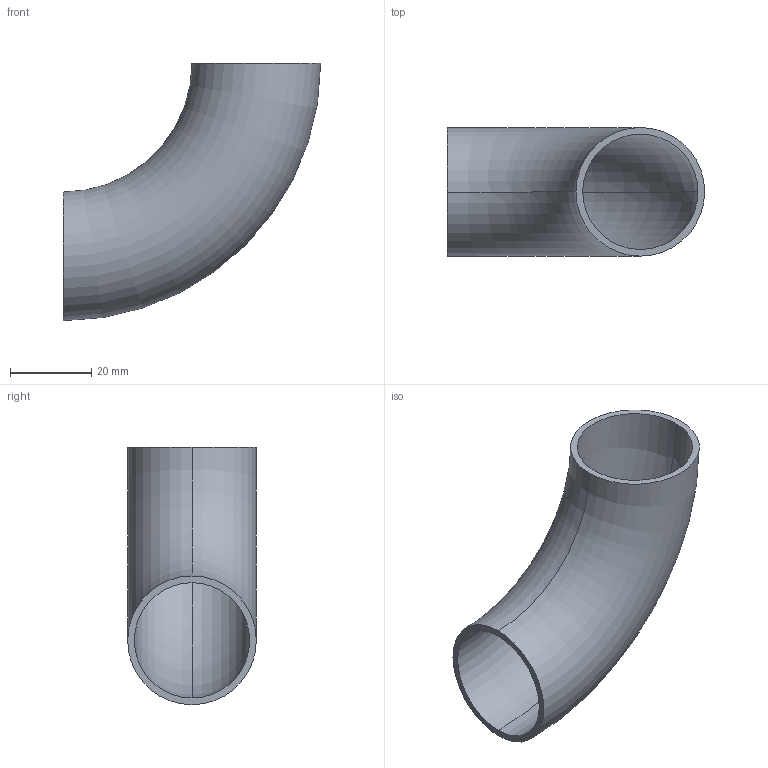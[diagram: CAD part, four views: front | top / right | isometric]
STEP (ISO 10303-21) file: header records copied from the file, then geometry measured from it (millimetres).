
FILE_DESCRIPTION (( 'STEP AP203' ), '1' );
FILE_NAME ('2WCL1.25.STEP', '2018-05-02T15:36:42', ( 'vneprd' ), ( 'Microsoft' ), 'SwSTEP 2.0', 'SolidWorks 2014', '' );
FILE_SCHEMA (( 'CONFIG_CONTROL_DESIGN' ));
Length unit declared in the file: inch
Products named in the file (1): 2WCL1.25
Bounding box: 63.5 x 31.75 x 63.5 mm (x, y, z)
Volume: 11679 mm3; surface area: 14460 mm2
Topology: 1 solids, 1 shells, 6 faces, 12 edges, 8 vertices
Faces by surface type: torus 4, plane 2
Entity records: 251 total; most frequent: DIRECTION 38, CARTESIAN_POINT 27, ORIENTED_EDGE 24, AXIS2_PLACEMENT_3D 19, CIRCLE 12, EDGE_CURVE 12, VERTEX_POINT 8, PERSON_AND_ORGANIZATION 8
